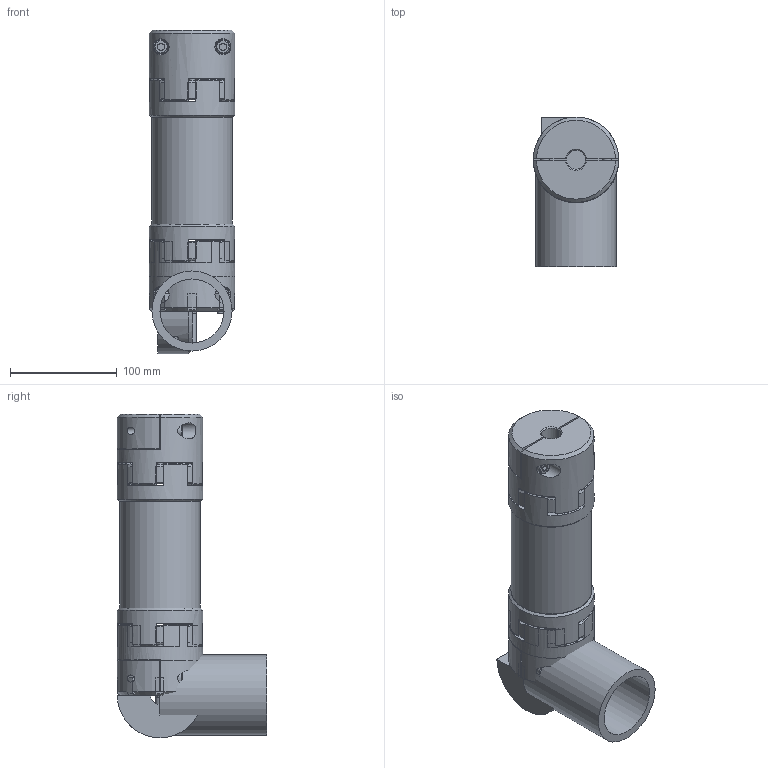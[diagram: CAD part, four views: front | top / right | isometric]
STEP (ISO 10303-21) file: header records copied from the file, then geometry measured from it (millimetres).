
FILE_DESCRIPTION( ( 'Unknown' ), '1' );
FILE_NAME( 'K:/Konstruktion/DRE/DRE38.stp', 'Unknown', ( 'Unknown' ), ( 'Unknown' ), 'XStep 1.0', 'Unknown', ' ' );
FILE_SCHEMA( ( 'automotive_design' ) );
Length unit declared in the file: millimetre
Products named in the file (7): Assem1; KBE 2H - 38_Nabe; KBE 2H - 38_Klemme; Zahnkranz_38_Standard; ISO EN DIN 4762 M8x30; R75; Aufnahme R75
Bounding box: 80 x 140 x 303 mm (x, y, z)
Volume: 1603811.3 mm3; surface area: 339498.7 mm2
Topology: 19 solids, 19 shells, 829 faces, 1907 edges, 1172 vertices
Faces by surface type: cone 305, cylinder 261, plane 178, torus 85
Full cylindrical faces by diameter (mm): 5 x24, 6.647 x6, 7 x5, 8 x10, 9 x6, 13 x5, 15 x6, 18 x6, 38 x6, 60 x5, 75 x2, 80 x6
Entity records: 8108 total; most frequent: CARTESIAN_POINT 2181, DIRECTION 1262, ORIENTED_EDGE 1112, AXIS2_PLACEMENT_3D 585, EDGE_CURVE 556, VERTEX_POINT 364, EDGE_LOOP 332, CIRCLE 310
